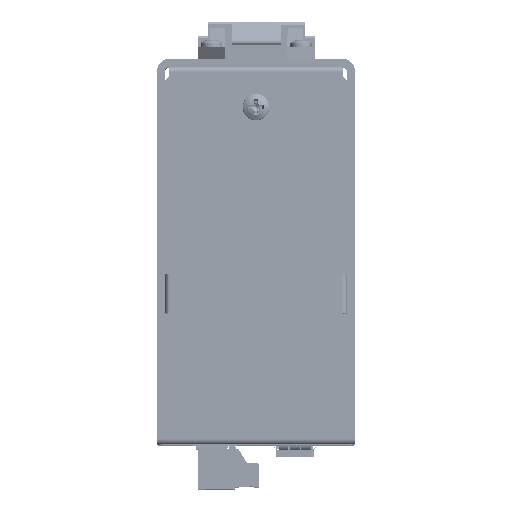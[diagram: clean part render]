
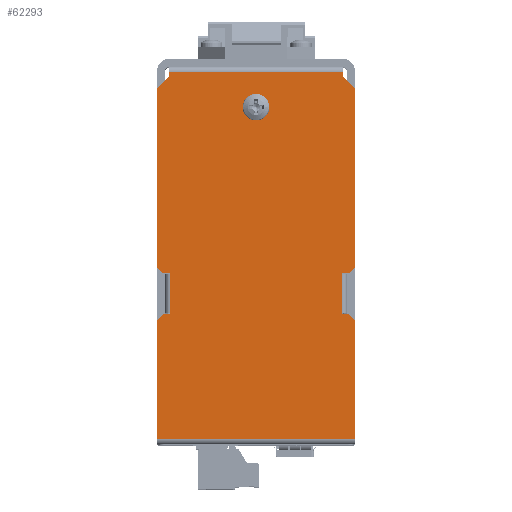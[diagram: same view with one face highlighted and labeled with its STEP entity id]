
A CAD part, top view. The second image highlights one B-rep face of the part: STEP entity #62293.
In plain terms, the highlighted planar face has unit normal (0, 0, 1).
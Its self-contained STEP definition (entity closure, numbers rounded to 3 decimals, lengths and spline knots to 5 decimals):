
#3875=LINE('',#95437,#9307);
#3876=LINE('',#95440,#9308);
#3877=LINE('',#95442,#9309);
#3878=LINE('',#95444,#9310);
#3879=LINE('',#95446,#9311);
#3880=LINE('',#95448,#9312);
#3881=LINE('',#95450,#9313);
#3882=LINE('',#95452,#9314);
#3883=LINE('',#95454,#9315);
#3884=LINE('',#95458,#9316);
#3885=LINE('',#95462,#9317);
#3886=LINE('',#95464,#9318);
#3887=LINE('',#95466,#9319);
#3888=LINE('',#95468,#9320);
#3889=LINE('',#95470,#9321);
#3890=LINE('',#95472,#9322);
#3891=LINE('',#95474,#9323);
#3892=LINE('',#95478,#9324);
#3893=LINE('',#95482,#9325);
#3894=LINE('',#95484,#9326);
#9307=VECTOR('',#76683,1.);
#9308=VECTOR('',#76684,1.);
#9309=VECTOR('',#76685,1.);
#9310=VECTOR('',#76686,1.);
#9311=VECTOR('',#76687,1.);
#9312=VECTOR('',#76688,1.);
#9313=VECTOR('',#76689,1.);
#9314=VECTOR('',#76690,1.);
#9315=VECTOR('',#76691,1.);
#9316=VECTOR('',#76694,1.);
#9317=VECTOR('',#76697,1.);
#9318=VECTOR('',#76698,1.);
#9319=VECTOR('',#76699,1.);
#9320=VECTOR('',#76700,1.);
#9321=VECTOR('',#76701,1.);
#9322=VECTOR('',#76702,1.);
#9323=VECTOR('',#76703,1.);
#9324=VECTOR('',#76706,1.);
#9325=VECTOR('',#76709,1.);
#9326=VECTOR('',#76710,1.);
#18328=ORIENTED_EDGE('',*,*,#33853,.T.);
#18329=ORIENTED_EDGE('',*,*,#33854,.F.);
#18330=ORIENTED_EDGE('',*,*,#33855,.T.);
#18331=ORIENTED_EDGE('',*,*,#33856,.T.);
#18332=ORIENTED_EDGE('',*,*,#33857,.F.);
#18333=ORIENTED_EDGE('',*,*,#33858,.F.);
#18334=ORIENTED_EDGE('',*,*,#33859,.F.);
#18335=ORIENTED_EDGE('',*,*,#33860,.T.);
#18336=ORIENTED_EDGE('',*,*,#33861,.T.);
#18337=ORIENTED_EDGE('',*,*,#33862,.T.);
#18338=ORIENTED_EDGE('',*,*,#33863,.F.);
#18339=ORIENTED_EDGE('',*,*,#33864,.T.);
#18340=ORIENTED_EDGE('',*,*,#33865,.F.);
#18341=ORIENTED_EDGE('',*,*,#33866,.F.);
#18342=ORIENTED_EDGE('',*,*,#33867,.T.);
#18343=ORIENTED_EDGE('',*,*,#33868,.T.);
#18344=ORIENTED_EDGE('',*,*,#33869,.T.);
#18345=ORIENTED_EDGE('',*,*,#33870,.F.);
#18346=ORIENTED_EDGE('',*,*,#33871,.F.);
#18347=ORIENTED_EDGE('',*,*,#33872,.T.);
#18348=ORIENTED_EDGE('',*,*,#33873,.T.);
#18349=ORIENTED_EDGE('',*,*,#33874,.F.);
#18350=ORIENTED_EDGE('',*,*,#33875,.T.);
#18351=ORIENTED_EDGE('',*,*,#33876,.F.);
#18352=ORIENTED_EDGE('',*,*,#33877,.F.);
#33853=EDGE_CURVE('',#42256,#42256,#47657,.T.);
#33854=EDGE_CURVE('',#42257,#42258,#3875,.T.);
#33855=EDGE_CURVE('',#42257,#42259,#3876,.T.);
#33856=EDGE_CURVE('',#42259,#42260,#3877,.T.);
#33857=EDGE_CURVE('',#42261,#42260,#3878,.T.);
#33858=EDGE_CURVE('',#42262,#42261,#3879,.T.);
#33859=EDGE_CURVE('',#42263,#42262,#3880,.T.);
#33860=EDGE_CURVE('',#42263,#42264,#3881,.T.);
#33861=EDGE_CURVE('',#42264,#42265,#3882,.F.);
#33862=EDGE_CURVE('',#42265,#42266,#3883,.T.);
#33863=EDGE_CURVE('',#42267,#42266,#47658,.F.);
#33864=EDGE_CURVE('',#42267,#42268,#3884,.F.);
#33865=EDGE_CURVE('',#42269,#42268,#47659,.F.);
#33866=EDGE_CURVE('',#42270,#42269,#3885,.T.);
#33867=EDGE_CURVE('',#42270,#42271,#3886,.T.);
#33868=EDGE_CURVE('',#42271,#42272,#3887,.T.);
#33869=EDGE_CURVE('',#42272,#42273,#3888,.F.);
#33870=EDGE_CURVE('',#42274,#42273,#3889,.T.);
#33871=EDGE_CURVE('',#42275,#42274,#3890,.T.);
#33872=EDGE_CURVE('',#42275,#42276,#3891,.T.);
#33873=EDGE_CURVE('',#42276,#42277,#47660,.F.);
#33874=EDGE_CURVE('',#42278,#42277,#3892,.F.);
#33875=EDGE_CURVE('',#42278,#42279,#47661,.F.);
#33876=EDGE_CURVE('',#42280,#42279,#3893,.T.);
#33877=EDGE_CURVE('',#42258,#42280,#3894,.F.);
#42256=VERTEX_POINT('',#95436);
#42257=VERTEX_POINT('',#95438);
#42258=VERTEX_POINT('',#95439);
#42259=VERTEX_POINT('',#95441);
#42260=VERTEX_POINT('',#95443);
#42261=VERTEX_POINT('',#95445);
#42262=VERTEX_POINT('',#95447);
#42263=VERTEX_POINT('',#95449);
#42264=VERTEX_POINT('',#95451);
#42265=VERTEX_POINT('',#95453);
#42266=VERTEX_POINT('',#95455);
#42267=VERTEX_POINT('',#95457);
#42268=VERTEX_POINT('',#95459);
#42269=VERTEX_POINT('',#95461);
#42270=VERTEX_POINT('',#95463);
#42271=VERTEX_POINT('',#95465);
#42272=VERTEX_POINT('',#95467);
#42273=VERTEX_POINT('',#95469);
#42274=VERTEX_POINT('',#95471);
#42275=VERTEX_POINT('',#95473);
#42276=VERTEX_POINT('',#95475);
#42277=VERTEX_POINT('',#95477);
#42278=VERTEX_POINT('',#95479);
#42279=VERTEX_POINT('',#95481);
#42280=VERTEX_POINT('',#95483);
#47657=CIRCLE('',#67527,0.00237);
#47658=CIRCLE('',#67528,0.00006);
#47659=CIRCLE('',#67529,0.00006);
#47660=CIRCLE('',#67530,0.00006);
#47661=CIRCLE('',#67531,0.00006);
#51332=EDGE_LOOP('',(#18328));
#51333=EDGE_LOOP('',(#18329,#18330,#18331,#18332,#18333,#18334,#18335,#18336,
#18337,#18338,#18339,#18340,#18341,#18342,#18343,#18344,#18345,#18346,#18347,
#18348,#18349,#18350,#18351,#18352));
#56391=FACE_BOUND('',#51332,.T.);
#56392=FACE_BOUND('',#51333,.T.);
#59669=PLANE('',#67526);
#62293=ADVANCED_FACE('',(#56391,#56392),#59669,.F.);
#67526=AXIS2_PLACEMENT_3D('',#95434,#76679,#76680);
#67527=AXIS2_PLACEMENT_3D('',#95435,#76681,#76682);
#67528=AXIS2_PLACEMENT_3D('',#95456,#76692,#76693);
#67529=AXIS2_PLACEMENT_3D('',#95460,#76695,#76696);
#67530=AXIS2_PLACEMENT_3D('',#95476,#76704,#76705);
#67531=AXIS2_PLACEMENT_3D('',#95480,#76707,#76708);
#76679=DIRECTION('',(0.,0.,-1.));
#76680=DIRECTION('',(1.,0.,0.));
#76681=DIRECTION('',(0.,0.,-1.));
#76682=DIRECTION('',(0.,1.,0.));
#76683=DIRECTION('',(0.,-1.,0.));
#76684=DIRECTION('',(-0.707,0.707,0.));
#76685=DIRECTION('',(0.,1.,0.));
#76686=DIRECTION('',(1.,0.,0.));
#76687=DIRECTION('',(0.,1.,0.));
#76688=DIRECTION('',(0.707,0.707,0.));
#76689=DIRECTION('',(0.,-1.,0.));
#76690=DIRECTION('',(-0.707,0.707,0.));
#76691=DIRECTION('',(1.,0.,0.));
#76692=DIRECTION('',(0.,0.,-1.));
#76693=DIRECTION('',(0.,-1.,0.));
#76694=DIRECTION('',(0.,1.,0.));
#76695=DIRECTION('',(0.,0.,-1.));
#76696=DIRECTION('',(0.,-1.,0.));
#76697=DIRECTION('',(1.,0.,0.));
#76698=DIRECTION('',(-0.707,-0.707,0.));
#76699=DIRECTION('',(0.,-1.,0.));
#76700=DIRECTION('',(-1.,0.,0.));
#76701=DIRECTION('',(0.,-1.,0.));
#76702=DIRECTION('',(0.707,-0.707,0.));
#76703=DIRECTION('',(-1.,0.,0.));
#76704=DIRECTION('',(0.,0.,1.));
#76705=DIRECTION('',(0.,-1.,0.));
#76706=DIRECTION('',(0.,1.,0.));
#76707=DIRECTION('',(0.,0.,1.));
#76708=DIRECTION('',(0.,-1.,0.));
#76709=DIRECTION('',(-1.,0.,0.));
#76710=DIRECTION('',(0.707,0.707,0.));
#95434=CARTESIAN_POINT('',(0.0127,0.04826,0.12459));
#95435=CARTESIAN_POINT('',(0.,0.08674,0.12459));
#95436=CARTESIAN_POINT('',(0.,0.08912,0.12459));
#95437=CARTESIAN_POINT('',(0.0254,0.04826,0.12459));
#95438=CARTESIAN_POINT('',(0.0254,0.09157,0.12459));
#95439=CARTESIAN_POINT('',(0.0254,0.04547,0.12459));
#95440=CARTESIAN_POINT('',(0.02388,0.09309,0.12459));
#95441=CARTESIAN_POINT('',(0.02235,0.09462,0.12459));
#95442=CARTESIAN_POINT('',(0.02235,0.09589,0.12459));
#95443=CARTESIAN_POINT('',(0.02235,0.09589,0.12459));
#95444=CARTESIAN_POINT('',(0.0127,0.09589,0.12459));
#95445=CARTESIAN_POINT('',(-0.02235,0.09589,0.12459));
#95446=CARTESIAN_POINT('',(-0.02235,0.09589,0.12459));
#95447=CARTESIAN_POINT('',(-0.02235,0.09462,0.12459));
#95448=CARTESIAN_POINT('',(-0.02388,0.09309,0.12459));
#95449=CARTESIAN_POINT('',(-0.0254,0.09157,0.12459));
#95450=CARTESIAN_POINT('',(-0.0254,0.04826,0.12459));
#95451=CARTESIAN_POINT('',(-0.0254,0.04547,0.12459));
#95452=CARTESIAN_POINT('',(-0.02388,0.04394,0.12459));
#95453=CARTESIAN_POINT('',(-0.02388,0.04394,0.12459));
#95454=CARTESIAN_POINT('',(-0.02438,0.04394,0.12459));
#95455=CARTESIAN_POINT('',(-0.0221,0.04394,0.12459));
#95456=CARTESIAN_POINT('',(-0.0221,0.04388,0.12459));
#95457=CARTESIAN_POINT('',(-0.0221,0.04382,0.12459));
#95458=CARTESIAN_POINT('',(-0.0221,0.04826,0.12459));
#95459=CARTESIAN_POINT('',(-0.0221,0.03366,0.12459));
#95460=CARTESIAN_POINT('',(-0.0221,0.03359,0.12459));
#95461=CARTESIAN_POINT('',(-0.0221,0.03353,0.12459));
#95462=CARTESIAN_POINT('',(-0.02438,0.03353,0.12459));
#95463=CARTESIAN_POINT('',(-0.02388,0.03353,0.12459));
#95464=CARTESIAN_POINT('',(-0.0254,0.032,0.12459));
#95465=CARTESIAN_POINT('',(-0.0254,0.032,0.12459));
#95466=CARTESIAN_POINT('',(-0.0254,0.04826,0.12459));
#95467=CARTESIAN_POINT('',(-0.0254,0.00127,0.12459));
#95468=CARTESIAN_POINT('',(0.0127,0.00127,0.12459));
#95469=CARTESIAN_POINT('',(0.0254,0.00127,0.12459));
#95470=CARTESIAN_POINT('',(0.0254,0.04826,0.12459));
#95471=CARTESIAN_POINT('',(0.0254,0.032,0.12459));
#95472=CARTESIAN_POINT('',(0.0254,0.032,0.12459));
#95473=CARTESIAN_POINT('',(0.02388,0.03353,0.12459));
#95474=CARTESIAN_POINT('',(0.02438,0.03353,0.12459));
#95475=CARTESIAN_POINT('',(0.0221,0.03353,0.12459));
#95476=CARTESIAN_POINT('',(0.0221,0.03359,0.12459));
#95477=CARTESIAN_POINT('',(0.0221,0.03366,0.12459));
#95478=CARTESIAN_POINT('',(0.0221,0.04826,0.12459));
#95479=CARTESIAN_POINT('',(0.0221,0.04382,0.12459));
#95480=CARTESIAN_POINT('',(0.0221,0.04388,0.12459));
#95481=CARTESIAN_POINT('',(0.0221,0.04394,0.12459));
#95482=CARTESIAN_POINT('',(0.02438,0.04394,0.12459));
#95483=CARTESIAN_POINT('',(0.02388,0.04394,0.12459));
#95484=CARTESIAN_POINT('',(0.02388,0.04394,0.12459));
